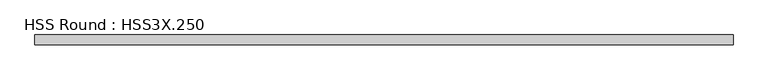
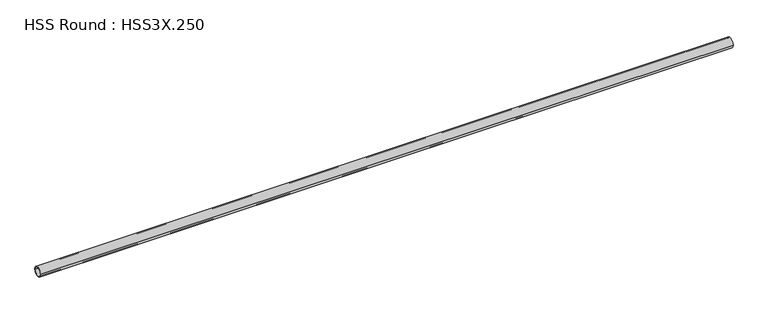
"""IFC4 building model written with IfcOpenShell, lengths in millimetres: member geometry, HSS Round : HSS3X.250."""

import ifcopenshell
import ifcopenshell.guid

model = None  # the IFC model being written
_history = None  # IfcOwnerHistory: only IFC2X3 demands one
_inside = {}  # id of a spatial element -> (the spatial element, [elements in it])
_under = {}  # id of a project, library or spatial element -> (it, [spatial elements below it])
_declared = {}  # id of a project -> (the project, [libraries it declares])
_typed = {}  # id of a type object -> (the type object, [elements of that type])
_made_of = {}  # id of a material, layer set ... -> (it, [elements and type objects made of it])


def new_model(schema):
    """Start an empty IFC model of exactly this schema.

    Asked for "IFC4X3", IfcOpenShell would pick the latest addendum, in which some entities
    have other attributes; the version numbers below select the first issue.
    IFC2X3 requires an IfcOwnerHistory on every rooted entity: one is made here for all.
    """
    global model, _history
    if schema == "IFC4X3":
        model = ifcopenshell.file(schema_version=(4, 3, 0, 0))
    else:
        model = ifcopenshell.file(schema=schema)
    _inside.clear()
    _under.clear()
    _declared.clear()
    _typed.clear()
    _made_of.clear()
    _history = None
    if model.schema == "IFC2X3":
        org = make("IfcOrganization", Name="unknown")
        user = make(
            "IfcPersonAndOrganization",
            ThePerson=make("IfcPerson", FamilyName="unknown"),
            TheOrganization=org,
        )
        app = make(
            "IfcApplication",
            ApplicationDeveloper=org,
            Version="unknown",
            ApplicationFullName="unknown",
            ApplicationIdentifier="unknown",
        )
        _history = make(
            "IfcOwnerHistory",
            OwningUser=user,
            OwningApplication=app,
            ChangeAction="ADDED",
            CreationDate=0,
        )
    return model


def make(cls, **values):
    """One entity of the class cls with the attributes given. An attribute that is None is left unset."""
    return model.create_entity(
        cls, **{name: value for name, value in values.items() if value is not None}
    )


def rooted(cls, **values):
    """An entity with a GlobalId (a new one), such as an element, a storey or a relation."""
    return make(cls, GlobalId=ifcopenshell.guid.new(), OwnerHistory=_history, **values)


def si_unit(unit_type, name, prefix=None):
    """IfcSIUnit, for example si_unit("LENGTHUNIT", "METRE", prefix="MILLI")."""
    return make("IfcSIUnit", UnitType=unit_type, Prefix=prefix, Name=name)


def assignment(units):
    """IfcUnitAssignment: the units of a project."""
    return None if units is None else make("IfcUnitAssignment", Units=units)


def point(xyz):
    """IfcCartesianPoint."""
    return None if xyz is None else make("IfcCartesianPoint", Coordinates=xyz)


def direction(xyz):
    """IfcDirection."""
    return None if xyz is None else make("IfcDirection", DirectionRatios=xyz)


def frame(location, z_axis=None, x_axis=None):
    """IfcAxis2Placement3D, a coordinate frame: its origin and axes. An axis left out is left unset."""
    return make(
        "IfcAxis2Placement3D",
        Location=point(location),
        Axis=direction(z_axis),
        RefDirection=direction(x_axis),
    )


def frame_2d(location, x_axis=None):
    """IfcAxis2Placement2D, a coordinate frame in the plane: its origin and x axis."""
    return make(
        "IfcAxis2Placement2D", Location=point(location), RefDirection=direction(x_axis)
    )


def origin():
    """The frame at (0, 0, 0) with its axes left unset."""
    return frame((0.0, 0.0, 0.0))


def origin_2d():
    """The frame at (0, 0) in the plane with its x axis left unset."""
    return frame_2d((0.0, 0.0))


def place(relative_to, where):
    """IfcLocalPlacement: puts the frame where relative to a parent placement (None: the world)."""
    return make(
        "IfcLocalPlacement", PlacementRelTo=relative_to, RelativePlacement=where
    )


def context(
    kind, dimensions, precision=None, world=None, true_north=None, identifier=None
):
    """IfcGeometricRepresentationContext, for example the 3D "Model" context."""
    return make(
        "IfcGeometricRepresentationContext",
        ContextIdentifier=identifier,
        ContextType=kind,
        CoordinateSpaceDimension=dimensions,
        Precision=precision,
        WorldCoordinateSystem=world,
        TrueNorth=true_north,
    )


def project(units=None, contexts=None):
    """IfcProject with its units and contexts."""
    return rooted(
        "IfcProject",
        Name="project",
        RepresentationContexts=contexts,
        UnitsInContext=assignment(units),
    )


def spatial(cls, under=None, at=None, **own):
    """A site, building, storey or space (cls), placed at a placement, below another one or the project."""
    s = rooted(cls, ObjectPlacement=at, **own)
    if under is not None:
        _under.setdefault(under.id(), (under, []))[1].append(s)
    return s


def circle_curve(where, radius):
    """IfcCircle in the frame where."""
    return make("IfcCircle", Position=where, Radius=radius)


def trimmed(basis, trim1, trim2, sense, master):
    """IfcTrimmedCurve: the piece of a basis curve between two trims."""
    return make(
        "IfcTrimmedCurve",
        BasisCurve=basis,
        Trim1=trim1,
        Trim2=trim2,
        SenseAgreement=sense,
        MasterRepresentation=master,
    )


def segment(curve, same_sense, transition):
    """IfcCompositeCurveSegment."""
    return make(
        "IfcCompositeCurveSegment",
        Transition=transition,
        SameSense=same_sense,
        ParentCurve=curve,
    )


def composite_curve(segments, self_intersect=None):
    """IfcCompositeCurve: segments joined end to end."""
    return make("IfcCompositeCurve", Segments=segments, SelfIntersect=self_intersect)


def outline(outer, holes=None, kind="AREA"):
    """IfcArbitraryClosedProfileDef: a profile drawn as a closed curve; with holes, ...WithVoids."""
    if holes is None:
        return make("IfcArbitraryClosedProfileDef", ProfileType=kind, OuterCurve=outer)
    return make(
        "IfcArbitraryProfileDefWithVoids",
        ProfileType=kind,
        OuterCurve=outer,
        InnerCurves=holes,
    )


def extrude(swept, where, along, depth):
    """IfcExtrudedAreaSolid: the profile swept, set in the frame where, extruded along a direction by depth."""
    return make(
        "IfcExtrudedAreaSolid",
        SweptArea=swept,
        Position=where,
        ExtrudedDirection=direction(along),
        Depth=depth,
    )


def shape(context_of_items, identifier, shape_type, items):
    """IfcShapeRepresentation: the items that make up one representation, for example the "Body"."""
    return make(
        "IfcShapeRepresentation",
        ContextOfItems=context_of_items,
        RepresentationIdentifier=identifier,
        RepresentationType=shape_type,
        Items=items,
    )


def source(mapping_origin, context_of_items, identifier, shape_type, items):
    """IfcRepresentationMap: a shape defined once, which mapped items show again and again."""
    return make(
        "IfcRepresentationMap",
        MappingOrigin=mapping_origin,
        MappedRepresentation=shape(context_of_items, identifier, shape_type, items),
    )


def transform(
    local_origin,
    x_axis=None,
    y_axis=None,
    z_axis=None,
    scale=None,
    scale2=None,
    scale3=None,
    uniform=True,
):
    """IfcCartesianTransformationOperator3D, or its non-uniform kind. x_axis, y_axis, z_axis: its Axis1, 2, 3."""
    if uniform:
        return make(
            "IfcCartesianTransformationOperator3D",
            Axis1=direction(x_axis),
            Axis2=direction(y_axis),
            LocalOrigin=point(local_origin),
            Scale=scale,
            Axis3=direction(z_axis),
        )
    return make(
        "IfcCartesianTransformationOperator3DnonUniform",
        Axis1=direction(x_axis),
        Axis2=direction(y_axis),
        LocalOrigin=point(local_origin),
        Scale=scale,
        Axis3=direction(z_axis),
        Scale2=scale2,
        Scale3=scale3,
    )


def mapped(mapping_source, mapping_target):
    """IfcMappedItem: shows the shape of a source again, moved by a transform."""
    return make(
        "IfcMappedItem", MappingSource=mapping_source, MappingTarget=mapping_target
    )


def made_of(thing, what):
    """Note that an element or type object is made of a material, layer set ...; save() writes the relation."""
    if what is not None:
        _made_of.setdefault(what.id(), (what, []))[1].append(thing)
    return thing


def element(
    cls,
    number,
    at=None,
    inside=None,
    cuts=None,
    type_object=None,
    material=None,
    context=None,
    identifier="Body",
    shape_type=None,
    held_by="IfcProductDefinitionShape",
    body=None,
    shapes=None,
    **own,
):
    """One element of the class cls, such as IfcWall. Its Tag is "e" and its number.

    at: its placement. inside: the storey or other place that contains it. cuts: it is an
    opening in that element (IfcRelVoidsElement). A single representation is given by context,
    identifier, shape_type and body (its items); several are given by shapes. held_by: the class
    of the entity that holds the representations. save() writes the other relations.
    """
    e = rooted(cls, Tag="e%d" % number, ObjectPlacement=at, **own)
    if body is not None:
        shapes = [shape(context, identifier, shape_type, body)]
    if shapes is not None:
        e.Representation = make(held_by, Representations=shapes)
    if inside is not None:
        _inside.setdefault(inside.id(), (inside, []))[1].append(e)
    if cuts is not None:
        rooted(
            "IfcRelVoidsElement", RelatingBuildingElement=cuts, RelatedOpeningElement=e
        )
    if type_object is not None:
        _typed.setdefault(type_object.id(), (type_object, []))[1].append(e)
    return made_of(e, material)


def aggregate(whole, parts):
    """IfcRelAggregates: a whole, such as a stair, and the parts it consists of."""
    return rooted("IfcRelAggregates", RelatingObject=whole, RelatedObjects=parts)


def save(model, path):
    """Write the relations noted so far, then the file.

    IfcRelAggregates (storeys below a building ...), IfcRelContainedInSpatialStructure (elements
    in a storey), IfcRelDefinesByType, IfcRelAssociatesMaterial and IfcRelDeclares: one each for
    every whole, place, type object, material and project.
    """
    for whole, parts in _under.values():
        aggregate(whole, parts)
    for where, things in _inside.values():
        rooted(
            "IfcRelContainedInSpatialStructure",
            RelatedElements=things,
            RelatingStructure=where,
        )
    for kind, things in _typed.values():
        rooted("IfcRelDefinesByType", RelatedObjects=things, RelatingType=kind)
    for what, things in _made_of.values():
        rooted("IfcRelAssociatesMaterial", RelatedObjects=things, RelatingMaterial=what)
    for by, libraries in _declared.values():
        rooted("IfcRelDeclares", RelatingContext=by, RelatedDefinitions=libraries)
    model.write(path)


def hss_round_hss3x_250_74f8981e(model_context):
    return source(origin(), model_context, "Body", "SweptSolid", [
        extrude(outline(composite_curve([segment(trimmed(circle_curve(origin_2d(), 38.1), [point((-38.1, 0.0))], [point((38.1, 0.0))], False, "CARTESIAN"), True, "CONTINUOUS"), segment(trimmed(circle_curve(origin_2d(), 38.1), [point((38.1, 0.0))], [point((-38.1, 0.0))], False, "CARTESIAN"), True, "CONTINUOUS")], self_intersect=False), holes=[composite_curve([segment(trimmed(circle_curve(origin_2d(), 31.75), [point((31.75, 0.0))], [point((-31.75, 0.0))], True, "CARTESIAN"), True, "CONTINUOUS"), segment(trimmed(circle_curve(origin_2d(), 31.75), [point((-31.75, 0.0))], [point((31.75, 0.0))], True, "CARTESIAN"), True, "CONTINUOUS")], self_intersect=False)]), frame((-2635.7306021, 0.0, 0.0), z_axis=(1.0, 0.0, 0.0), x_axis=(0.0, 1.0, 0.0)), (0.0, 0.0, 1.0), 5429.6890586),
    ])


if __name__ == "__main__":
    model = new_model("IFC4")
    model_context = context("Model", 3, world=origin())
    ifc_project = project(units=[si_unit("LENGTHUNIT", "METRE", prefix="MILLI")], contexts=[model_context])
    site = spatial("IfcSite", under=ifc_project)
    building = spatial("IfcBuilding", under=site)
    placement = place(None, origin())
    hss_round_hss3x_250_shape = hss_round_hss3x_250_74f8981e(model_context)
    element("IfcMember", 1, ObjectType="HSS Round : HSS3X.250", at=placement, inside=building, context=model_context, shape_type="MappedRepresentation", body=[
        mapped(hss_round_hss3x_250_shape, transform((0.0, 0.0, 0.0), x_axis=(1.0, 0.0, 0.0), y_axis=(0.0, 1.0, 0.0), z_axis=(0.0, 0.0, 1.0))),
    ])
    save(model, "model.ifc")
